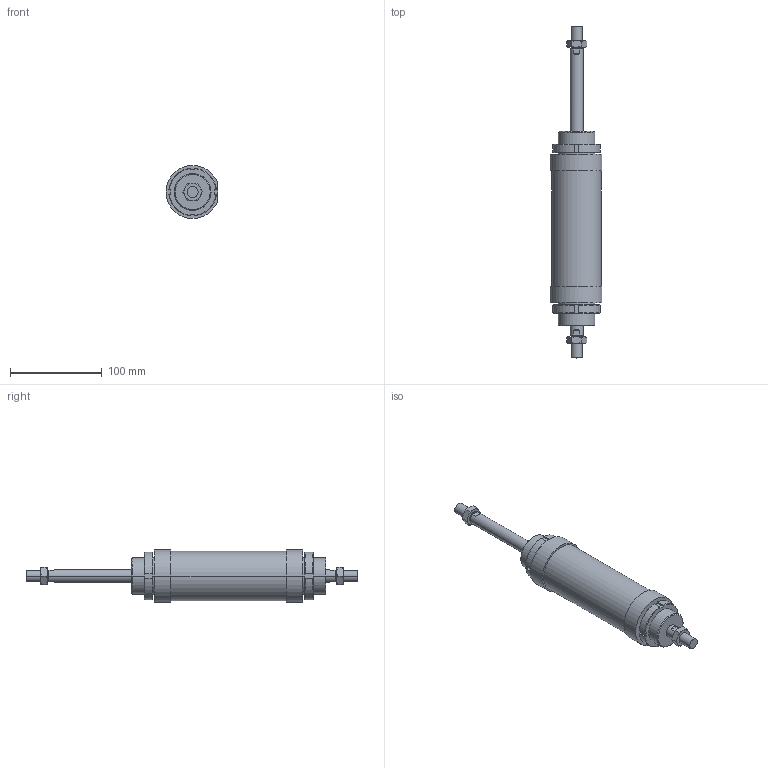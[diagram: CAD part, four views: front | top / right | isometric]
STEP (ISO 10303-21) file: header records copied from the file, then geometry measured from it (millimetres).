
FILE_DESCRIPTION((''),'2;1');
FILE_NAME('I:\DOC-EDP\Lib-3d\1200\CILINDRI\1262\1262_50_0080.stp','2003-04-02T19:15:31',('maffial1'),(''),'Autodesk Inventor (R) 6.0','Autodesk Inventor (R) 6.0','');
FILE_SCHEMA(('AUTOMOTIVE_DESIGN { 1 0 10303 214 1 1 1 1 }'));
Length unit declared in the file: millimetre
Products named in the file (5): 1262_50_0080; S1262_50_80; C1262_50_80; 1200_50_05; 1200_50_06
Assembly tree (6 placements, depth 2):
  1262_50_0080
    S1262_50_80
    C1262_50_80
    1200_50_05  x2
    1200_50_06  x2
Bounding box: 56.6 x 362 x 57.85 mm (x, y, z)
Volume: 483154 mm3; surface area: 76709.6 mm2
Topology: 6 solids, 6 shells, 182 faces, 424 edges, 264 vertices
Faces by surface type: plane 66, cone 56, cylinder 30, bspline 30
Entity records: 3737 total; most frequent: CARTESIAN_POINT 969, DIRECTION 572, ORIENTED_EDGE 548, EDGE_CURVE 274, AXIS2_PLACEMENT_3D 227, VERTEX_POINT 172, EDGE_LOOP 136, FACE_OUTER_BOUND 120
